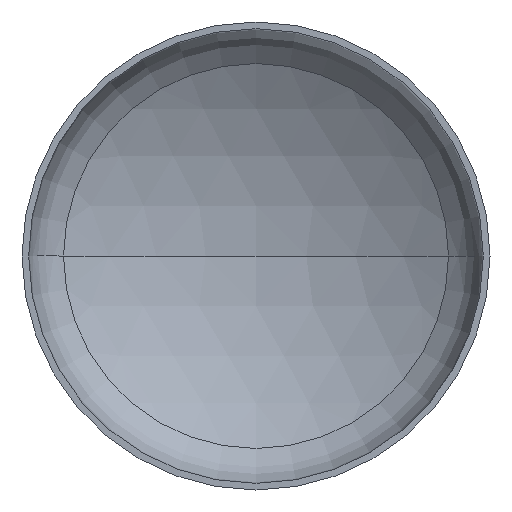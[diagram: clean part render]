
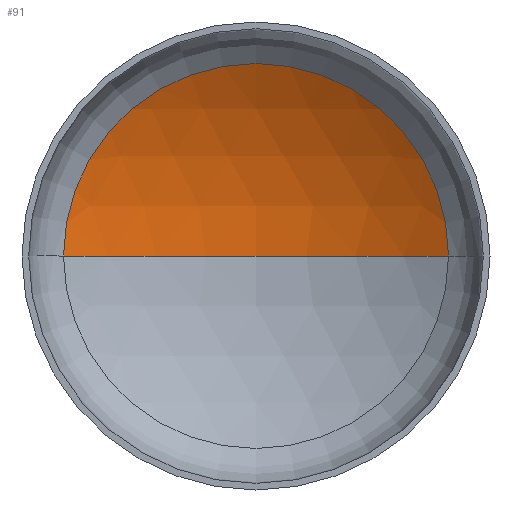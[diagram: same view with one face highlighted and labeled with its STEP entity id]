
A CAD part, front view. The second image highlights one B-rep face of the part: STEP entity #91.
In plain terms, the highlighted spherical face has radius 1280 mm.
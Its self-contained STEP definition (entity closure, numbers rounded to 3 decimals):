
#3 = AXIS2_PLACEMENT_3D ( 'NONE', #83, #228, #406 ) ;
#7 = SPHERICAL_SURFACE ( 'NONE', #40, 1280. ) ;
#15 = AXIS2_PLACEMENT_3D ( 'NONE', #177, #173, #21 ) ;
#17 = AXIS2_PLACEMENT_3D ( 'NONE', #302, #303, #172 ) ;
#21 = DIRECTION ( 'NONE',  ( -1., 0., 0. ) ) ;
#22 = ORIENTED_EDGE ( 'NONE', *, *, #365, .F. ) ;
#40 = AXIS2_PLACEMENT_3D ( 'NONE', #183, #243, #239 ) ;
#82 = VERTEX_POINT ( 'NONE', #308 ) ;
#83 = CARTESIAN_POINT ( 'NONE',  ( 0., -817.807, 0. ) ) ;
#91 = ADVANCED_FACE ( 'NONE', ( #235 ), #7, .F. ) ;
#96 = VERTEX_POINT ( 'NONE', #292 ) ;
#140 = EDGE_LOOP ( 'NONE', ( #22, #206, #176 ) ) ;
#172 = DIRECTION ( 'NONE',  ( 1., 0., 0. ) ) ;
#173 = DIRECTION ( 'NONE',  ( 0., 0., -1. ) ) ;
#176 = ORIENTED_EDGE ( 'NONE', *, *, #318, .T. ) ;
#177 = CARTESIAN_POINT ( 'NONE',  ( 0., -817.807, 0. ) ) ;
#183 = CARTESIAN_POINT ( 'NONE',  ( 0., -817.807, 0. ) ) ;
#204 = VERTEX_POINT ( 'NONE', #249 ) ;
#206 = ORIENTED_EDGE ( 'NONE', *, *, #324, .T. ) ;
#228 = DIRECTION ( 'NONE',  ( 0., 0., 1. ) ) ;
#235 = FACE_OUTER_BOUND ( 'NONE', #140, .T. ) ;
#239 = DIRECTION ( 'NONE',  ( -1., 0., 0. ) ) ;
#243 = DIRECTION ( 'NONE',  ( 0., 0., -1. ) ) ;
#249 = CARTESIAN_POINT ( 'NONE',  ( 657.932, 280.157, 0. ) ) ;
#261 = CIRCLE ( 'NONE', #15, 1280. ) ;
#292 = CARTESIAN_POINT ( 'NONE',  ( 0., 462.193, 0. ) ) ;
#302 = CARTESIAN_POINT ( 'NONE',  ( 0., 280.157, 0. ) ) ;
#303 = DIRECTION ( 'NONE',  ( 0., -1., 0. ) ) ;
#308 = CARTESIAN_POINT ( 'NONE',  ( -657.932, 280.157, 0. ) ) ;
#309 = CIRCLE ( 'NONE', #3, 1280. ) ;
#318 = EDGE_CURVE ( 'NONE', #204, #82, #329, .T. ) ;
#324 = EDGE_CURVE ( 'NONE', #96, #204, #261, .T. ) ;
#329 = CIRCLE ( 'NONE', #17, 657.932 ) ;
#365 = EDGE_CURVE ( 'NONE', #96, #82, #309, .T. ) ;
#406 = DIRECTION ( 'NONE',  ( 1., 0., 0. ) ) ;
